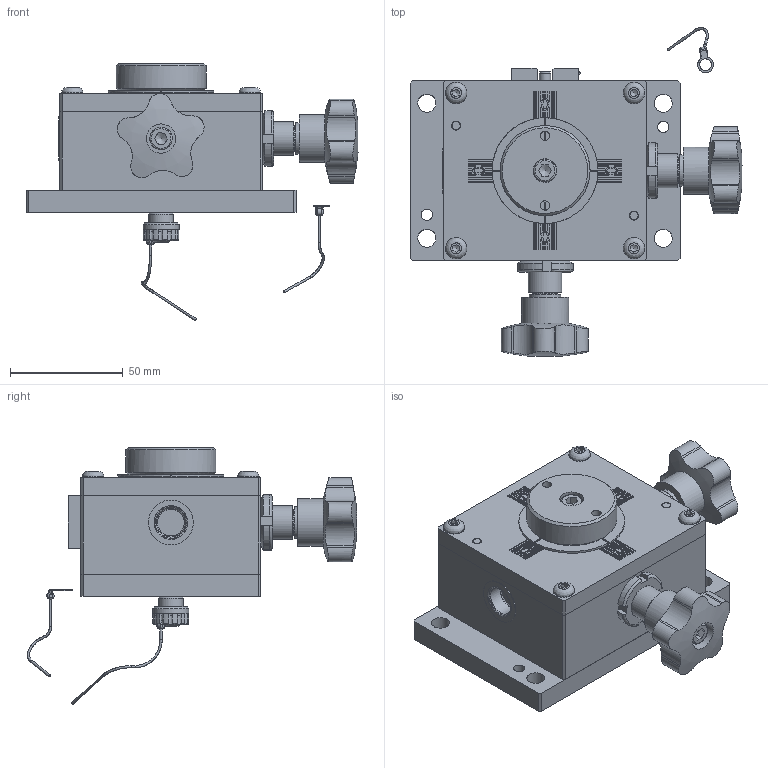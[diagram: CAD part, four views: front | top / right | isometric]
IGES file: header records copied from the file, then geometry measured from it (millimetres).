
Global section: file name: 146.00-DX-L; native system: Autodesk Inventor 2019; preprocessor: unknown; author: AP; date: 20200220.150030; units: millimetre
Bounding box: 147.51 x 146.23 x 114.1 mm (x, y, z)
Volume: 409179.2 mm3; surface area: 141157.1 mm2
Topology: 49 solids, 49 shells, 1134 faces, 2942 edges, 2006 vertices
Faces by surface type: bspline 1134
